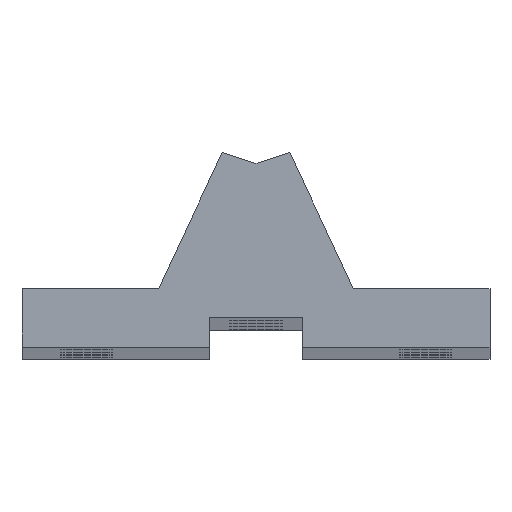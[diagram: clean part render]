
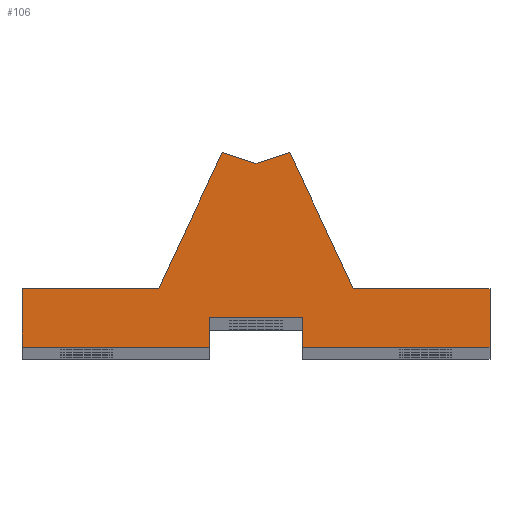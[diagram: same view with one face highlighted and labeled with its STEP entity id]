
A CAD part, top view. The second image highlights one B-rep face of the part: STEP entity #106.
In plain terms, the highlighted planar face has unit normal (0, 0, 1).
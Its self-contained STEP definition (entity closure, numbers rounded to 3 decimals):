
#3 = VECTOR ( 'NONE', #1860, 1000. ) ;
#24 = EDGE_CURVE ( 'NONE', #526, #99, #1401, .T. ) ;
#36 = VECTOR ( 'NONE', #2025, 1000. ) ;
#38 = DIRECTION ( 'NONE',  ( -1., 0., 0. ) ) ;
#99 = VERTEX_POINT ( 'NONE', #2283 ) ;
#106 = ADVANCED_FACE ( 'NONE', ( #863 ), #1451, .T. ) ;
#130 = VERTEX_POINT ( 'NONE', #2371 ) ;
#141 = DIRECTION ( 'NONE',  ( -1., 0., 0. ) ) ;
#227 = LINE ( 'NONE', #2295, #1988 ) ;
#237 = DIRECTION ( 'NONE',  ( -0.954, 0.301, 0. ) ) ;
#250 = EDGE_CURVE ( 'NONE', #99, #2289, #492, .T. ) ;
#260 = VERTEX_POINT ( 'NONE', #1523 ) ;
#266 = EDGE_CURVE ( 'NONE', #2365, #1470, #2252, .T. ) ;
#332 = DIRECTION ( 'NONE',  ( 0., 0., 1. ) ) ;
#391 = EDGE_CURVE ( 'NONE', #2289, #130, #980, .T. ) ;
#442 = ORIENTED_EDGE ( 'NONE', *, *, #768, .T. ) ;
#445 = CARTESIAN_POINT ( 'NONE',  ( 0., 13.209, 299.75 ) ) ;
#492 = LINE ( 'NONE', #1256, #1527 ) ;
#523 = CARTESIAN_POINT ( 'NONE',  ( -4., 0., 299.75 ) ) ;
#526 = VERTEX_POINT ( 'NONE', #1339 ) ;
#576 = ORIENTED_EDGE ( 'NONE', *, *, #1651, .T. ) ;
#626 = DIRECTION ( 'NONE',  ( 1., 0., 0. ) ) ;
#670 = DIRECTION ( 'NONE',  ( 0., -1., 0. ) ) ;
#672 = EDGE_LOOP ( 'NONE', ( #747, #2241, #442, #779, #576, #1091, #2236, #2367, #836, #1472, #2122, #1599, #2096 ) ) ;
#674 = CARTESIAN_POINT ( 'NONE',  ( -20., 2.5, 299.75 ) ) ;
#680 = EDGE_CURVE ( 'NONE', #1967, #737, #1000, .T. ) ;
#697 = EDGE_CURVE ( 'NONE', #2365, #2130, #227, .T. ) ;
#711 = DIRECTION ( 'NONE',  ( 0., 1., 0. ) ) ;
#716 = DIRECTION ( 'NONE',  ( 0., -1., 0. ) ) ;
#737 = VERTEX_POINT ( 'NONE', #972 ) ;
#747 = ORIENTED_EDGE ( 'NONE', *, *, #266, .F. ) ;
#768 = EDGE_CURVE ( 'NONE', #2130, #1967, #1275, .T. ) ;
#777 = VECTOR ( 'NONE', #711, 1000. ) ;
#779 = ORIENTED_EDGE ( 'NONE', *, *, #680, .T. ) ;
#796 = CARTESIAN_POINT ( 'NONE',  ( -8.315, 2.5, 299.75 ) ) ;
#825 = DIRECTION ( 'NONE',  ( 1., 0., 0. ) ) ;
#836 = ORIENTED_EDGE ( 'NONE', *, *, #391, .T. ) ;
#863 = FACE_OUTER_BOUND ( 'NONE', #672, .T. ) ;
#930 = CARTESIAN_POINT ( 'NONE',  ( 2.896, 14.122, 299.75 ) ) ;
#942 = CARTESIAN_POINT ( 'NONE',  ( 2.85, 14.22, 299.75 ) ) ;
#956 = AXIS2_PLACEMENT_3D ( 'NONE', #1808, #332, #1769 ) ;
#972 = CARTESIAN_POINT ( 'NONE',  ( 8.315, 2.5, 299.75 ) ) ;
#980 = LINE ( 'NONE', #2113, #1910 ) ;
#1000 = LINE ( 'NONE', #1404, #1680 ) ;
#1001 = VECTOR ( 'NONE', #237, 1000. ) ;
#1021 = VECTOR ( 'NONE', #825, 1000. ) ;
#1049 = EDGE_CURVE ( 'NONE', #130, #1903, #1657, .T. ) ;
#1064 = LINE ( 'NONE', #2185, #1882 ) ;
#1066 = CARTESIAN_POINT ( 'NONE',  ( 20., 2.5, 299.75 ) ) ;
#1091 = ORIENTED_EDGE ( 'NONE', *, *, #2369, .T. ) ;
#1113 = LINE ( 'NONE', #2278, #1021 ) ;
#1188 = VERTEX_POINT ( 'NONE', #930 ) ;
#1234 = DIRECTION ( 'NONE',  ( -0.954, -0.301, 0. ) ) ;
#1256 = CARTESIAN_POINT ( 'NONE',  ( -8.315, 2.5, 299.75 ) ) ;
#1275 = LINE ( 'NONE', #1812, #777 ) ;
#1288 = EDGE_CURVE ( 'NONE', #1903, #260, #1113, .T. ) ;
#1339 = CARTESIAN_POINT ( 'NONE',  ( 0., 13.209, 299.75 ) ) ;
#1401 = LINE ( 'NONE', #445, #1001 ) ;
#1404 = CARTESIAN_POINT ( 'NONE',  ( -20., 2.5, 299.75 ) ) ;
#1450 = CARTESIAN_POINT ( 'NONE',  ( 4., -2.5, 299.75 ) ) ;
#1451 = PLANE ( 'NONE',  #956 ) ;
#1470 = VERTEX_POINT ( 'NONE', #2018 ) ;
#1472 = ORIENTED_EDGE ( 'NONE', *, *, #1049, .T. ) ;
#1497 = EDGE_CURVE ( 'NONE', #1551, #260, #1617, .T. ) ;
#1502 = CARTESIAN_POINT ( 'NONE',  ( 20., -2.5, 299.75 ) ) ;
#1523 = CARTESIAN_POINT ( 'NONE',  ( -4., -2.5, 299.75 ) ) ;
#1527 = VECTOR ( 'NONE', #1994, 1000. ) ;
#1551 = VERTEX_POINT ( 'NONE', #523 ) ;
#1577 = VECTOR ( 'NONE', #670, 1000. ) ;
#1599 = ORIENTED_EDGE ( 'NONE', *, *, #1497, .F. ) ;
#1617 = LINE ( 'NONE', #2362, #1577 ) ;
#1649 = CARTESIAN_POINT ( 'NONE',  ( -20., -2.5, 299.75 ) ) ;
#1651 = EDGE_CURVE ( 'NONE', #737, #1188, #2411, .T. ) ;
#1657 = LINE ( 'NONE', #674, #1831 ) ;
#1678 = CARTESIAN_POINT ( 'NONE',  ( 4., 0., 299.75 ) ) ;
#1680 = VECTOR ( 'NONE', #2287, 1000. ) ;
#1726 = VECTOR ( 'NONE', #1234, 1000. ) ;
#1769 = DIRECTION ( 'NONE',  ( 1., 0., 0. ) ) ;
#1808 = CARTESIAN_POINT ( 'NONE',  ( 0., 0., 299.75 ) ) ;
#1812 = CARTESIAN_POINT ( 'NONE',  ( 20., 2.5, 299.75 ) ) ;
#1831 = VECTOR ( 'NONE', #716, 1000. ) ;
#1860 = DIRECTION ( 'NONE',  ( -0.423, 0.906, 0. ) ) ;
#1882 = VECTOR ( 'NONE', #141, 1000. ) ;
#1903 = VERTEX_POINT ( 'NONE', #1649 ) ;
#1910 = VECTOR ( 'NONE', #38, 1000. ) ;
#1967 = VERTEX_POINT ( 'NONE', #1066 ) ;
#1988 = VECTOR ( 'NONE', #626, 1000. ) ;
#1994 = DIRECTION ( 'NONE',  ( -0.423, -0.906, 0. ) ) ;
#2005 = LINE ( 'NONE', #2370, #1726 ) ;
#2018 = CARTESIAN_POINT ( 'NONE',  ( 4., 0., 299.75 ) ) ;
#2025 = DIRECTION ( 'NONE',  ( 0., 1., 0. ) ) ;
#2096 = ORIENTED_EDGE ( 'NONE', *, *, #2408, .F. ) ;
#2113 = CARTESIAN_POINT ( 'NONE',  ( -20., 2.5, 299.75 ) ) ;
#2122 = ORIENTED_EDGE ( 'NONE', *, *, #1288, .T. ) ;
#2130 = VERTEX_POINT ( 'NONE', #1502 ) ;
#2185 = CARTESIAN_POINT ( 'NONE',  ( -4., 0., 299.75 ) ) ;
#2236 = ORIENTED_EDGE ( 'NONE', *, *, #24, .T. ) ;
#2241 = ORIENTED_EDGE ( 'NONE', *, *, #697, .T. ) ;
#2252 = LINE ( 'NONE', #1678, #36 ) ;
#2278 = CARTESIAN_POINT ( 'NONE',  ( -20., -2.5, 299.75 ) ) ;
#2283 = CARTESIAN_POINT ( 'NONE',  ( -2.896, 14.122, 299.75 ) ) ;
#2287 = DIRECTION ( 'NONE',  ( -1., 0., 0. ) ) ;
#2289 = VERTEX_POINT ( 'NONE', #796 ) ;
#2295 = CARTESIAN_POINT ( 'NONE',  ( -20., -2.5, 299.75 ) ) ;
#2362 = CARTESIAN_POINT ( 'NONE',  ( -4., 0., 299.75 ) ) ;
#2365 = VERTEX_POINT ( 'NONE', #1450 ) ;
#2367 = ORIENTED_EDGE ( 'NONE', *, *, #250, .T. ) ;
#2369 = EDGE_CURVE ( 'NONE', #1188, #526, #2005, .T. ) ;
#2370 = CARTESIAN_POINT ( 'NONE',  ( 3.207, 14.22, 299.75 ) ) ;
#2371 = CARTESIAN_POINT ( 'NONE',  ( -20., 2.5, 299.75 ) ) ;
#2408 = EDGE_CURVE ( 'NONE', #1470, #1551, #1064, .T. ) ;
#2411 = LINE ( 'NONE', #942, #3 ) ;
